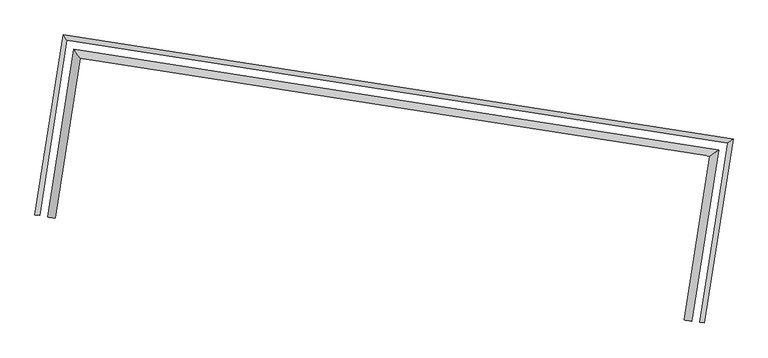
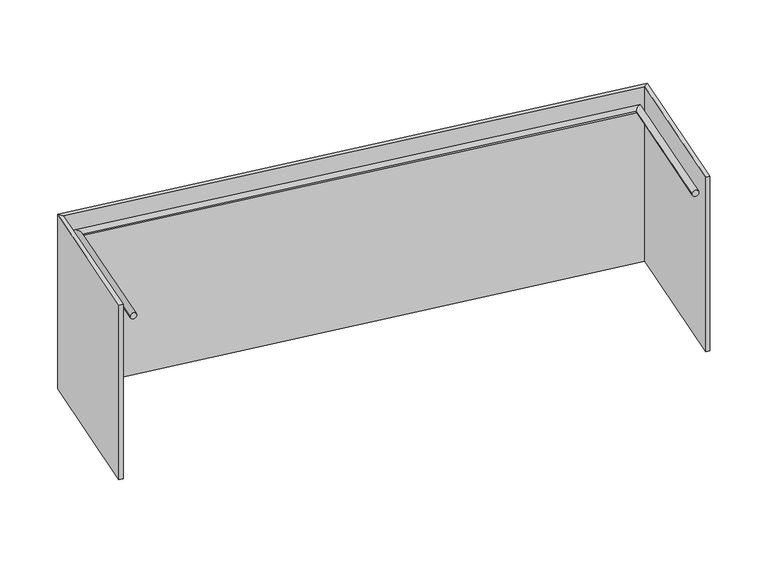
"""IFC4 building model written with IfcOpenShell, lengths in millimetres: railing geometry, Panel de vidrio - balcón."""

from ifc_helpers import new_model, si_unit, frame, origin, place, context, project, spatial, circle_curve, ellipse_curve, faceted_brep, source, transform, mapped, element, save
from ifc_brep_helpers import plane_surface, cylinder_surface, advanced_brep


def railing_cd20893d(model_context):
    return source(origin(), model_context, "Body", "SolidModel", [
        faceted_brep([(-39067.461429, -72420.8563486, 10545.385397), (-39092.1631617, -72417.0061016, 10545.385397), (-39092.1631617, -72417.0061016, 9345.385397), (-39067.461429, -72420.8563486, 9345.385397), (-38917.0081921, -71455.605117, 10545.385397), (-38945.5601718, -71476.4566026, 10545.385397), (-38945.5601718, -71476.4566026, 9345.385397), (-38917.0081921, -71455.605117, 9345.385397), (-42430.0683342, -70908.0261391, 10545.385397), (-42409.2168485, -70936.5781188, 10545.385397), (-42409.2168485, -70936.5781188, 9345.385397), (-42430.0683342, -70908.0261391, 9345.385397), (-42577.4413737, -71853.5159854, 10545.385397), (-42577.4413737, -71853.5159854, 9345.385397), (-42552.739641, -71857.3662324, 9345.385397), (-42552.739641, -71857.3662324, 10545.385397)], [[[0, 1, 2, 3]], [[1, 0, 4, 5]], [[2, 1, 5, 6]], [[3, 2, 6, 7]], [[0, 3, 7, 4]], [[5, 4, 8, 9]], [[6, 5, 9, 10]], [[7, 6, 10, 11]], [[4, 7, 11, 8]], [[12, 13, 14, 15]], [[9, 8, 12, 15]], [[10, 9, 15, 14]], [[11, 10, 14, 13]], [[8, 11, 13, 12]]]),
        advanced_brep(
        [(-39173.0923659, -72404.3917062, 10450.0), (-39133.5695936, -72410.5521014, 10450.0), (-39039.1037714, -71544.7714111, 10450.0), (-38993.4206039, -71511.4090341, 10450.0), (-42340.9020398, -71030.1217188, 10450.0), (-42374.2644169, -70984.4385512, 10450.0), (-42471.8104368, -71869.9806278, 10450.0), (-42511.3332091, -71863.8202327, 10450.0)],
        [
            (0, 1, circle_curve(frame((-39153.3309798, -72407.4719038, 10450.0), z_axis=(-0.15400987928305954, -0.9880693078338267, 0.0), x_axis=(0.9880693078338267, -0.15400987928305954, 0.0)), 20.0)),
            (1, 0, circle_curve(frame((-39153.3309798, -72407.4719038, 10450.0), z_axis=(-0.15400987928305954, -0.9880693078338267, 0.0), x_axis=(0.9880693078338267, -0.15400987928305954, 0.0)), 20.0)),
            (0, 2),
            (2, 3, ellipse_curve(frame((-39016.2621876, -71528.0902226, 10450.0), z_axis=(0.5897690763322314, -0.8075719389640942, 0.0), x_axis=(-0.8075719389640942, -0.5897690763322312, 0.0)), 28.2842712, 20.0)),
            (3, 1),
            (3, 2, ellipse_curve(frame((-39016.2621876, -71528.0902226, 10450.0), z_axis=(0.5897690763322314, -0.8075719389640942, 0.0), x_axis=(-0.8075719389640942, -0.5897690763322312, 0.0)), 28.2842712, 20.0)),
            (2, 4),
            (4, 5, ellipse_curve(frame((-42357.5832284, -71007.280135, 10450.0), z_axis=(0.8075719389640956, 0.5897690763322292, 0.0), x_axis=(0.5897690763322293, -0.8075719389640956, 0.0)), 28.2842713, 20.0)),
            (5, 3),
            (5, 4, ellipse_curve(frame((-42357.5832284, -71007.280135, 10450.0), z_axis=(0.8075719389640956, 0.5897690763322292, 0.0), x_axis=(0.5897690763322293, -0.8075719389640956, 0.0)), 28.2842713, 20.0)),
            (6, 7, circle_curve(frame((-42491.5718229, -71866.9004302, 10450.0), z_axis=(-0.15400987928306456, -0.988069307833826, 0.0), x_axis=(-0.988069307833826, 0.15400987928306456, 0.0)), 20.0)),
            (7, 6, circle_curve(frame((-42491.5718229, -71866.9004302, 10450.0), z_axis=(-0.15400987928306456, -0.988069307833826, 0.0), x_axis=(-0.988069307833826, 0.15400987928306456, 0.0)), 20.0)),
            (4, 6),
            (7, 5),
        ],
        [
            plane_surface(frame((-39153.3309798, -72407.4719038, 10450.0), z_axis=(-0.15400987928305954, -0.9880693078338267, 0.0), x_axis=(0.9880693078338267, -0.15400987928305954, 0.0))),
            cylinder_surface(frame((-39153.3309798, -72407.4719038, 10450.0), z_axis=(-0.15400987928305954, -0.9880693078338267, 0.0), x_axis=(0.9880693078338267, -0.15400987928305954, 0.0)), 20.0),
            cylinder_surface(frame((-39016.2621876, -71528.0902226, 10450.0), z_axis=(0.9880693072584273, -0.1540098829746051, 0.0), x_axis=(0.1540098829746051, 0.9880693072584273, 0.0)), 20.0),
            plane_surface(frame((-42491.5718229, -71866.9004302, 10450.0), z_axis=(-0.15400987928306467, -0.988069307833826, 0.0), x_axis=(0.988069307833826, -0.15400987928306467, 0.0))),
            cylinder_surface(frame((-42357.5832284, -71007.280135, 10450.0), z_axis=(0.15400987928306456, 0.988069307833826, 0.0), x_axis=(-0.988069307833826, 0.15400987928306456, 0.0)), 20.0),
        ],
        [
            (0, [[1, 2]]),
            (1, [[-1, 3, 4, 5]]),
            (1, [[-2, -5, 6, -3]]),
            (2, [[-4, 7, 8, 9]]),
            (2, [[-6, -9, 10, -7]]),
            (3, [[11, 12]]),
            (4, [[-8, 13, -12, 14]]),
            (4, [[-10, -14, -11, -13]]),
        ],
    ),
    ])


if __name__ == "__main__":
    model = new_model("IFC4")
    model_context = context("Model", 3, world=origin())
    ifc_project = project(units=[si_unit("LENGTHUNIT", "METRE", prefix="MILLI")], contexts=[model_context])
    site = spatial("IfcSite", under=ifc_project)
    building = spatial("IfcBuilding", under=site)
    placement = place(None, origin())
    railing_shape = railing_cd20893d(model_context)
    element("IfcRailing", 1, ObjectType="Panel de vidrio - balcón", at=placement, inside=building, context=model_context, shape_type="MappedRepresentation", body=[
        mapped(railing_shape, transform((0.0, 0.0, 0.0), x_axis=(1.0, 0.0, 0.0), y_axis=(0.0, 1.0, 0.0), z_axis=(0.0, 0.0, 1.0))),
    ])
    save(model, "model.ifc")
